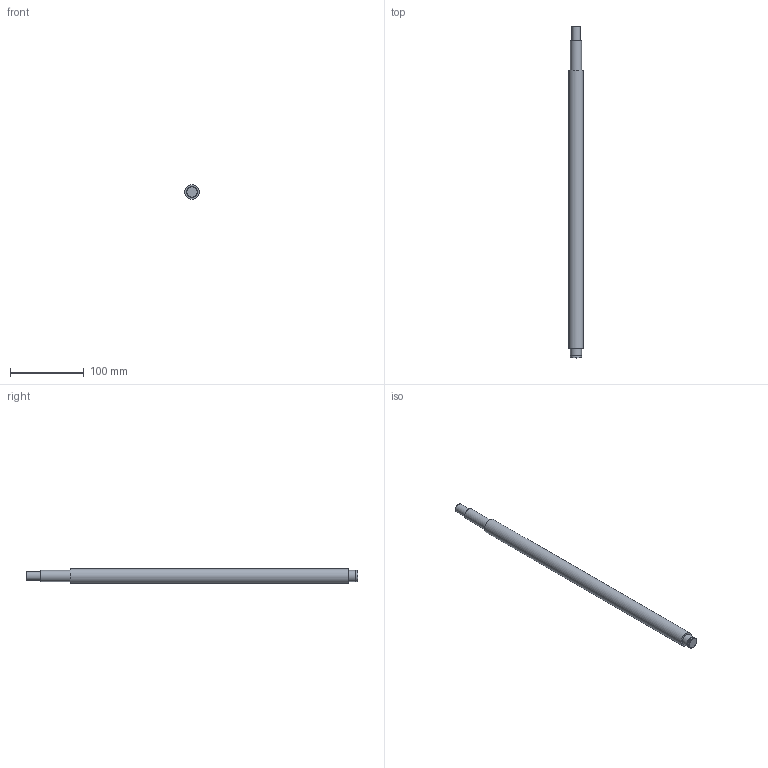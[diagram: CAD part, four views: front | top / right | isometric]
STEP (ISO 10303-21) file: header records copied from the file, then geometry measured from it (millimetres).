
FILE_DESCRIPTION(/* description */ (''),/* implementation_level */ '2;1');
FILE_NAME(/* name */ 'C:\Users\David\Desktop\stepFiles\Profilfuehrung\KUS2005x450.stp',/* time_stamp */ '2018-06-24T15:12:08+02:00',/* author */ ('David'),/* organization */ (''),/* preprocessor_version */ 'ST-DEVELOPER v17',/* originating_system */ 'Autodesk Inventor 2019',/* authorisation */ '');
FILE_SCHEMA (('AUTOMOTIVE_DESIGN { 1 0 10303 214 3 1 1 }'));
Length unit declared in the file: millimetre
Products named in the file (1): SFU2005xvaiabel
Bounding box: 20 x 450 x 20 mm (x, y, z)
Volume: 130037 mm3; surface area: 27571.7 mm2
Topology: 1 solids, 1 shells, 15 faces, 34 edges, 26 vertices
Faces by surface type: plane 7, cylinder 6, cone 2
Full cylindrical faces by diameter (mm): 12 x1, 14.3 x1, 15 x3, 20 x1
Entity records: 493 total; most frequent: DIRECTION 92, CARTESIAN_POINT 76, ORIENTED_EDGE 68, AXIS2_PLACEMENT_3D 42, EDGE_CURVE 34, CIRCLE 26, VERTEX_POINT 26, EDGE_LOOP 20
